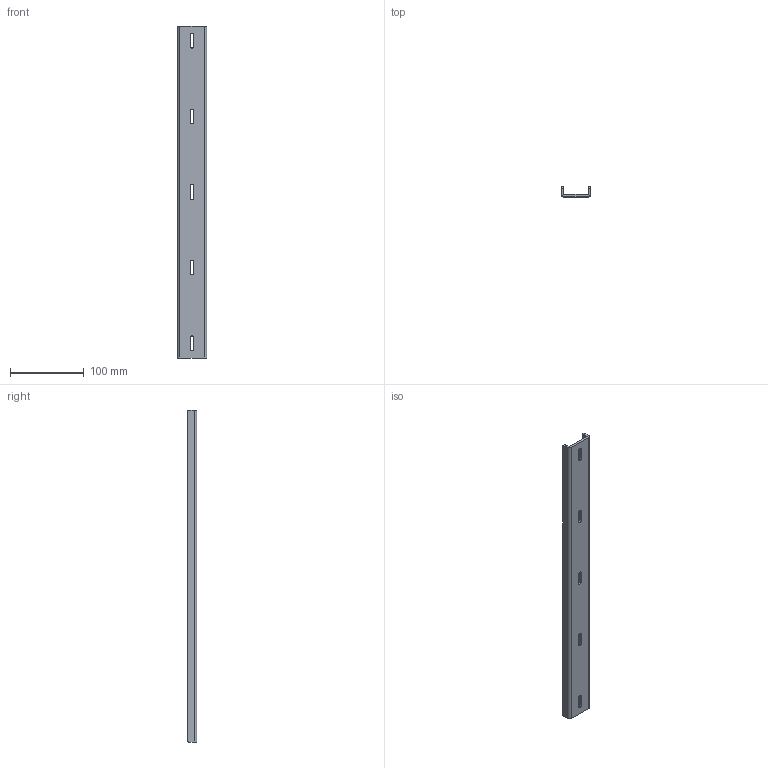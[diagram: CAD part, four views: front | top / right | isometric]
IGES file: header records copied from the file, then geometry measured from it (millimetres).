
Start section: SolidWorks IGES file using analytic representation for surfaces
Bounding box: 40 x 13 x 450 mm (x, y, z)
Surface area: 55313.7 mm2 (no closed solid volume)
Topology: 0 solids, 0 shells, 90 faces, 1034 edges, 1034 vertices
Faces by surface type: bspline 66, revolution 24
